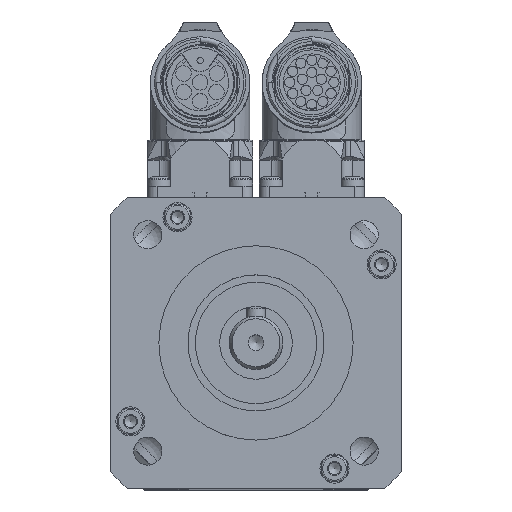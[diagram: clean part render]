
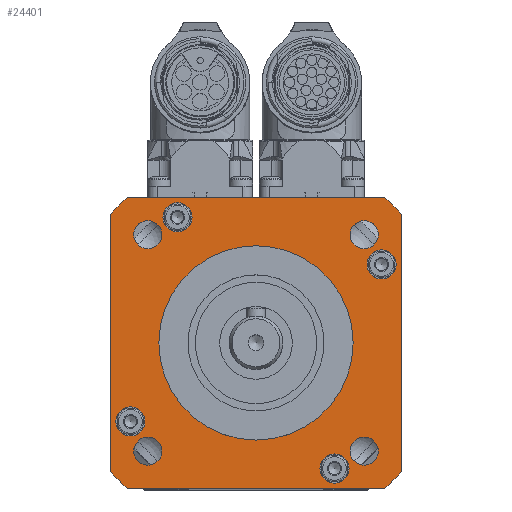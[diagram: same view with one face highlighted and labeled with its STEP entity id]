
A CAD part, top view. The second image highlights one B-rep face of the part: STEP entity #24401.
In plain terms, the highlighted planar face has unit normal (0, 0, 1).
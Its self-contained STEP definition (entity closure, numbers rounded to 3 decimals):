
#2592=LINE('',#35420,#4046);
#2596=LINE('',#35432,#4050);
#2600=LINE('',#35444,#4054);
#2604=LINE('',#35455,#4058);
#4046=VECTOR('',#28667,52.915);
#4050=VECTOR('',#28679,52.915);
#4054=VECTOR('',#28691,52.915);
#4058=VECTOR('',#28703,52.915);
#5509=PLANE('',#25956);
#6160=FACE_BOUND('',#8098,.T.);
#6161=FACE_BOUND('',#8099,.T.);
#6162=FACE_BOUND('',#8100,.T.);
#6163=FACE_BOUND('',#8101,.T.);
#6164=FACE_BOUND('',#8102,.T.);
#6165=FACE_BOUND('',#8103,.T.);
#6166=FACE_BOUND('',#8104,.T.);
#6167=FACE_BOUND('',#8105,.T.);
#6168=FACE_BOUND('',#8106,.T.);
#6169=FACE_BOUND('',#8107,.T.);
#8098=EDGE_LOOP('',(#17009));
#8099=EDGE_LOOP('',(#17010));
#8100=EDGE_LOOP('',(#17011));
#8101=EDGE_LOOP('',(#17012));
#8102=EDGE_LOOP('',(#17013));
#8103=EDGE_LOOP('',(#17014));
#8104=EDGE_LOOP('',(#17015));
#8105=EDGE_LOOP('',(#17016));
#8106=EDGE_LOOP('',(#17017));
#8107=EDGE_LOOP('',(#17018,#17019,#17020,#17021,#17022,#17023,#17024,#17025));
#9960=CIRCLE('',#25896,3.);
#9964=CIRCLE('',#25903,3.);
#9968=CIRCLE('',#25910,3.);
#9972=CIRCLE('',#25917,3.);
#9975=CIRCLE('',#25922,2.9);
#9977=CIRCLE('',#25925,2.9);
#9979=CIRCLE('',#25928,2.9);
#9981=CIRCLE('',#25931,2.9);
#9985=CIRCLE('',#25938,20.);
#9986=CIRCLE('',#25941,40.);
#9988=CIRCLE('',#25945,40.);
#9990=CIRCLE('',#25949,40.);
#9992=CIRCLE('',#25953,40.);
#11061=VERTEX_POINT('',#35339);
#11065=VERTEX_POINT('',#35350);
#11069=VERTEX_POINT('',#35361);
#11073=VERTEX_POINT('',#35372);
#11076=VERTEX_POINT('',#35380);
#11078=VERTEX_POINT('',#35385);
#11080=VERTEX_POINT('',#35390);
#11082=VERTEX_POINT('',#35395);
#11086=VERTEX_POINT('',#35406);
#11087=VERTEX_POINT('',#35410);
#11088=VERTEX_POINT('',#35411);
#11091=VERTEX_POINT('',#35419);
#11093=VERTEX_POINT('',#35425);
#11095=VERTEX_POINT('',#35431);
#11097=VERTEX_POINT('',#35437);
#11099=VERTEX_POINT('',#35443);
#11101=VERTEX_POINT('',#35449);
#13472=EDGE_CURVE('',#11061,#11061,#9960,.T.);
#13476=EDGE_CURVE('',#11065,#11065,#9964,.T.);
#13480=EDGE_CURVE('',#11069,#11069,#9968,.T.);
#13484=EDGE_CURVE('',#11073,#11073,#9972,.T.);
#13487=EDGE_CURVE('',#11076,#11076,#9975,.T.);
#13489=EDGE_CURVE('',#11078,#11078,#9977,.T.);
#13491=EDGE_CURVE('',#11080,#11080,#9979,.T.);
#13493=EDGE_CURVE('',#11082,#11082,#9981,.T.);
#13497=EDGE_CURVE('',#11086,#11086,#9985,.T.);
#13498=EDGE_CURVE('',#11087,#11088,#9986,.T.);
#13502=EDGE_CURVE('',#11088,#11091,#2592,.T.);
#13505=EDGE_CURVE('',#11091,#11093,#9988,.T.);
#13508=EDGE_CURVE('',#11093,#11095,#2596,.T.);
#13511=EDGE_CURVE('',#11095,#11097,#9990,.T.);
#13514=EDGE_CURVE('',#11097,#11099,#2600,.T.);
#13517=EDGE_CURVE('',#11099,#11101,#9992,.T.);
#13520=EDGE_CURVE('',#11101,#11087,#2604,.T.);
#17009=ORIENTED_EDGE('',*,*,#13472,.T.);
#17010=ORIENTED_EDGE('',*,*,#13476,.T.);
#17011=ORIENTED_EDGE('',*,*,#13480,.T.);
#17012=ORIENTED_EDGE('',*,*,#13484,.T.);
#17013=ORIENTED_EDGE('',*,*,#13487,.T.);
#17014=ORIENTED_EDGE('',*,*,#13489,.T.);
#17015=ORIENTED_EDGE('',*,*,#13491,.T.);
#17016=ORIENTED_EDGE('',*,*,#13493,.T.);
#17017=ORIENTED_EDGE('',*,*,#13497,.T.);
#17018=ORIENTED_EDGE('',*,*,#13520,.T.);
#17019=ORIENTED_EDGE('',*,*,#13498,.T.);
#17020=ORIENTED_EDGE('',*,*,#13502,.T.);
#17021=ORIENTED_EDGE('',*,*,#13505,.T.);
#17022=ORIENTED_EDGE('',*,*,#13508,.T.);
#17023=ORIENTED_EDGE('',*,*,#13511,.T.);
#17024=ORIENTED_EDGE('',*,*,#13514,.T.);
#17025=ORIENTED_EDGE('',*,*,#13517,.T.);
#24401=ADVANCED_FACE('',(#6160,#6161,#6162,#6163,#6164,#6165,#6166,#6167,
#6168,#6169),#5509,.T.);
#25896=AXIS2_PLACEMENT_3D('',#35340,#28569,#28570);
#25903=AXIS2_PLACEMENT_3D('',#35351,#28583,#28584);
#25910=AXIS2_PLACEMENT_3D('',#35362,#28597,#28598);
#25917=AXIS2_PLACEMENT_3D('',#35373,#28611,#28612);
#25922=AXIS2_PLACEMENT_3D('',#35381,#28621,#28622);
#25925=AXIS2_PLACEMENT_3D('',#35386,#28627,#28628);
#25928=AXIS2_PLACEMENT_3D('',#35391,#28633,#28634);
#25931=AXIS2_PLACEMENT_3D('',#35396,#28639,#28640);
#25938=AXIS2_PLACEMENT_3D('',#35407,#28653,#28654);
#25941=AXIS2_PLACEMENT_3D('',#35412,#28659,#28660);
#25945=AXIS2_PLACEMENT_3D('',#35426,#28672,#28673);
#25949=AXIS2_PLACEMENT_3D('',#35438,#28684,#28685);
#25953=AXIS2_PLACEMENT_3D('',#35450,#28696,#28697);
#25956=AXIS2_PLACEMENT_3D('',#35457,#28705,#28706);
#28569=DIRECTION('center_axis',(0.,0.,-1.));
#28570=DIRECTION('ref_axis',(0.,-1.,0.));
#28583=DIRECTION('center_axis',(0.,0.,-1.));
#28584=DIRECTION('ref_axis',(-1.,0.,0.));
#28597=DIRECTION('center_axis',(0.,0.,-1.));
#28598=DIRECTION('ref_axis',(0.,1.,0.));
#28611=DIRECTION('center_axis',(0.,0.,-1.));
#28612=DIRECTION('ref_axis',(1.,0.,0.));
#28621=DIRECTION('center_axis',(0.,0.,-1.));
#28622=DIRECTION('ref_axis',(0.,-1.,0.));
#28627=DIRECTION('center_axis',(0.,0.,-1.));
#28628=DIRECTION('ref_axis',(-1.,0.,0.));
#28633=DIRECTION('center_axis',(0.,0.,-1.));
#28634=DIRECTION('ref_axis',(0.,1.,0.));
#28639=DIRECTION('center_axis',(0.,0.,-1.));
#28640=DIRECTION('ref_axis',(1.,0.,0.));
#28653=DIRECTION('center_axis',(0.,0.,-1.));
#28654=DIRECTION('ref_axis',(-1.,0.,0.));
#28659=DIRECTION('center_axis',(0.,0.,1.));
#28660=DIRECTION('ref_axis',(-0.661,0.75,0.));
#28667=DIRECTION('',(0.,-1.,0.));
#28672=DIRECTION('center_axis',(0.,0.,1.));
#28673=DIRECTION('ref_axis',(-0.75,-0.661,0.));
#28679=DIRECTION('',(1.,0.,0.));
#28684=DIRECTION('center_axis',(0.,0.,1.));
#28685=DIRECTION('ref_axis',(-0.661,-0.75,0.));
#28691=DIRECTION('',(0.,1.,0.));
#28696=DIRECTION('center_axis',(0.,0.,1.));
#28697=DIRECTION('ref_axis',(0.75,0.661,0.));
#28703=DIRECTION('',(-1.,0.,0.));
#28705=DIRECTION('center_axis',(0.,0.,1.));
#28706=DIRECTION('ref_axis',(1.,0.,0.));
#35339=CARTESIAN_POINT('',(16.163,-28.865,8.));
#35340=CARTESIAN_POINT('Origin',(16.163,-25.865,8.));
#35350=CARTESIAN_POINT('',(-28.865,-16.163,8.));
#35351=CARTESIAN_POINT('Origin',(-25.865,-16.163,8.));
#35361=CARTESIAN_POINT('',(-16.163,28.865,8.));
#35362=CARTESIAN_POINT('Origin',(-16.163,25.865,8.));
#35372=CARTESIAN_POINT('',(28.865,16.163,8.));
#35373=CARTESIAN_POINT('Origin',(25.865,16.163,8.));
#35380=CARTESIAN_POINT('',(22.274,-25.174,8.));
#35381=CARTESIAN_POINT('Origin',(22.274,-22.274,8.));
#35385=CARTESIAN_POINT('',(-25.174,-22.274,8.));
#35386=CARTESIAN_POINT('Origin',(-22.274,-22.274,8.));
#35390=CARTESIAN_POINT('',(-22.274,25.174,8.));
#35391=CARTESIAN_POINT('Origin',(-22.274,22.274,8.));
#35395=CARTESIAN_POINT('',(25.174,22.274,8.));
#35396=CARTESIAN_POINT('Origin',(22.274,22.274,8.));
#35406=CARTESIAN_POINT('',(20.,0.,8.));
#35407=CARTESIAN_POINT('Origin',(0.,0.,8.));
#35410=CARTESIAN_POINT('',(-26.458,30.,8.));
#35411=CARTESIAN_POINT('',(-30.,26.458,8.));
#35412=CARTESIAN_POINT('Origin',(0.,0.,8.));
#35419=CARTESIAN_POINT('',(-30.,-26.458,8.));
#35420=CARTESIAN_POINT('',(-30.,26.458,8.));
#35425=CARTESIAN_POINT('',(-26.458,-30.,8.));
#35426=CARTESIAN_POINT('Origin',(0.,0.,8.));
#35431=CARTESIAN_POINT('',(26.458,-30.,8.));
#35432=CARTESIAN_POINT('',(-26.458,-30.,8.));
#35437=CARTESIAN_POINT('',(30.,-26.458,8.));
#35438=CARTESIAN_POINT('Origin',(0.,0.,8.));
#35443=CARTESIAN_POINT('',(30.,26.458,8.));
#35444=CARTESIAN_POINT('',(30.,-26.458,8.));
#35449=CARTESIAN_POINT('',(26.458,30.,8.));
#35450=CARTESIAN_POINT('Origin',(0.,0.,8.));
#35455=CARTESIAN_POINT('',(26.458,30.,8.));
#35457=CARTESIAN_POINT('Origin',(0.,0.,
8.));
